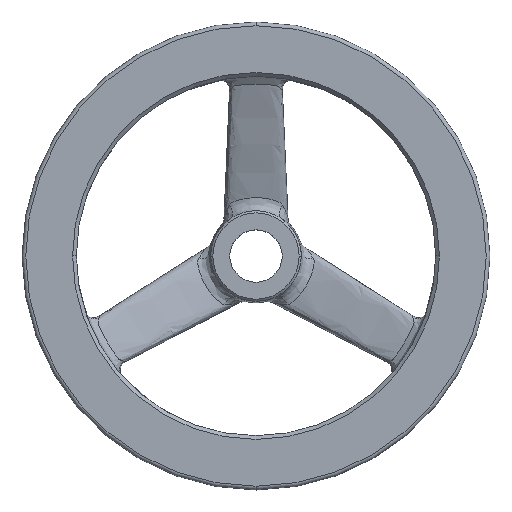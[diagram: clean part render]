
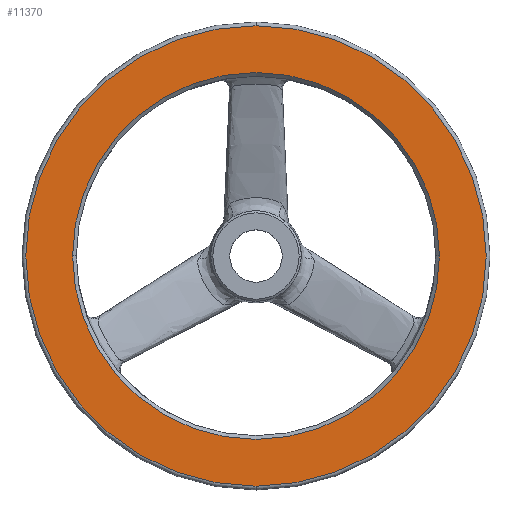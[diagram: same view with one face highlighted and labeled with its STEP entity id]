
A CAD part, top view. The second image highlights one B-rep face of the part: STEP entity #11370.
In plain terms, the highlighted planar face has unit normal (0, 0, 1).
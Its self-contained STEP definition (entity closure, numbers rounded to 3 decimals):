
#125 = AXIS2_PLACEMENT_3D ( 'NONE', #5761, #2464, #614 ) ;
#365 = CARTESIAN_POINT ( 'NONE',  ( 0., 0., 12. ) ) ;
#614 = DIRECTION ( 'NONE',  ( 0., 1., 0. ) ) ;
#1602 = ORIENTED_EDGE ( 'NONE', *, *, #12476, .T. ) ;
#1756 = PLANE ( 'NONE',  #6140 ) ;
#1973 = CIRCLE ( 'NONE', #11378, 49. ) ;
#2187 = ORIENTED_EDGE ( 'NONE', *, *, #3753, .T. ) ;
#2441 = FACE_BOUND ( 'NONE', #3346, .T. ) ;
#2464 = DIRECTION ( 'NONE',  ( 0., 0., 1. ) ) ;
#3121 = CARTESIAN_POINT ( 'NONE',  ( 0., 0., 12. ) ) ;
#3132 = EDGE_LOOP ( 'NONE', ( #2187, #7633 ) ) ;
#3346 = EDGE_LOOP ( 'NONE', ( #1602, #4447 ) ) ;
#3566 = VERTEX_POINT ( 'NONE', #12841 ) ;
#3632 = CARTESIAN_POINT ( 'NONE',  ( 0., 61.5, 12. ) ) ;
#3740 = DIRECTION ( 'NONE',  ( 0., 1., 0. ) ) ;
#3748 = FACE_OUTER_BOUND ( 'NONE', #3132, .T. ) ;
#3753 = EDGE_CURVE ( 'NONE', #7312, #10090, #9769, .T. ) ;
#3862 = DIRECTION ( 'NONE',  ( 0., 1., 0. ) ) ;
#3888 = AXIS2_PLACEMENT_3D ( 'NONE', #12090, #5926, #3862 ) ;
#4401 = DIRECTION ( 'NONE',  ( 0., 0., -1. ) ) ;
#4408 = EDGE_CURVE ( 'NONE', #3566, #9797, #4609, .T. ) ;
#4447 = ORIENTED_EDGE ( 'NONE', *, *, #4408, .T. ) ;
#4609 = CIRCLE ( 'NONE', #12279, 49. ) ;
#4630 = DIRECTION ( 'NONE',  ( 0., 0., -1. ) ) ;
#4689 = DIRECTION ( 'NONE',  ( 0., 0., -1. ) ) ;
#5400 = CARTESIAN_POINT ( 'NONE',  ( 0., -61.5, 12. ) ) ;
#5666 = CARTESIAN_POINT ( 'NONE',  ( 0., 62.5, 12. ) ) ;
#5761 = CARTESIAN_POINT ( 'NONE',  ( 0., 0., 12. ) ) ;
#5926 = DIRECTION ( 'NONE',  ( 0., 0., 1. ) ) ;
#6065 = CIRCLE ( 'NONE', #125, 61.5 ) ;
#6140 = AXIS2_PLACEMENT_3D ( 'NONE', #5666, #4630, #10867 ) ;
#7312 = VERTEX_POINT ( 'NONE', #3632 ) ;
#7633 = ORIENTED_EDGE ( 'NONE', *, *, #9453, .T. ) ;
#9346 = DIRECTION ( 'NONE',  ( 0., 1., 0. ) ) ;
#9453 = EDGE_CURVE ( 'NONE', #10090, #7312, #6065, .T. ) ;
#9769 = CIRCLE ( 'NONE', #3888, 61.5 ) ;
#9797 = VERTEX_POINT ( 'NONE', #10011 ) ;
#10011 = CARTESIAN_POINT ( 'NONE',  ( 49., 0., 12. ) ) ;
#10090 = VERTEX_POINT ( 'NONE', #5400 ) ;
#10867 = DIRECTION ( 'NONE',  ( 0., 1., 0. ) ) ;
#11370 = ADVANCED_FACE ( 'NONE', ( #2441, #3748 ), #1756, .F. ) ;
#11378 = AXIS2_PLACEMENT_3D ( 'NONE', #365, #4689, #3740 ) ;
#12090 = CARTESIAN_POINT ( 'NONE',  ( 0., 0., 12. ) ) ;
#12279 = AXIS2_PLACEMENT_3D ( 'NONE', #3121, #4401, #9346 ) ;
#12476 = EDGE_CURVE ( 'NONE', #9797, #3566, #1973, .T. ) ;
#12841 = CARTESIAN_POINT ( 'NONE',  ( -49., 0., 12. ) ) ;
